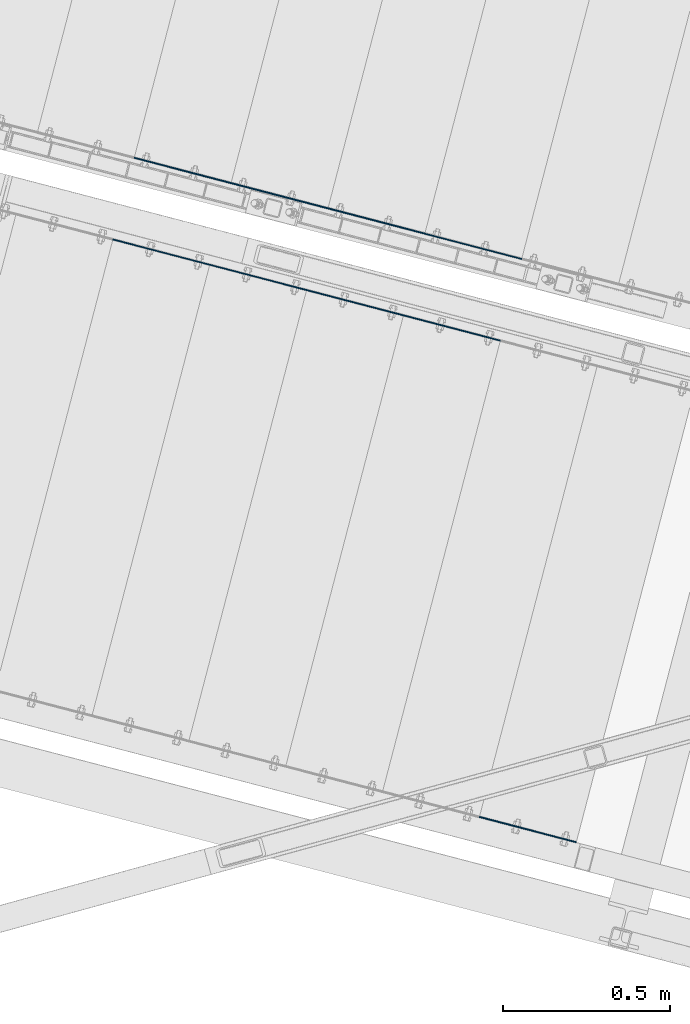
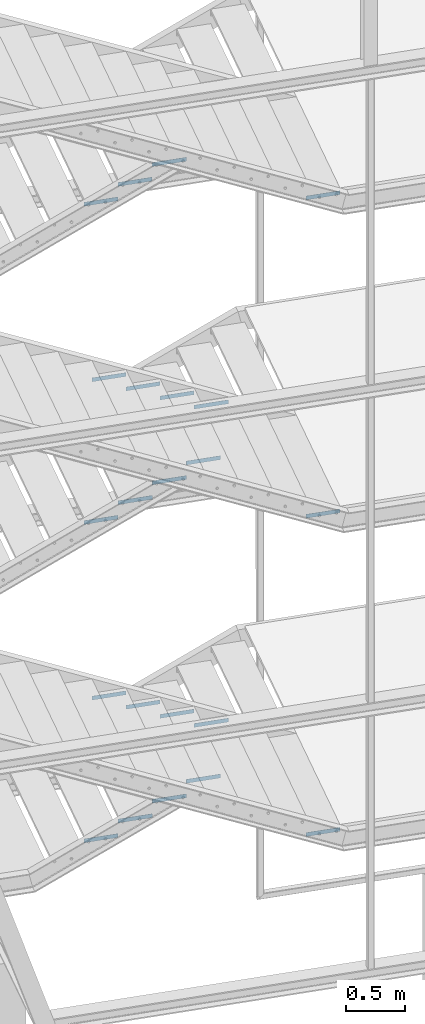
# One storey, part 68 of 169: 22 discrete accessories, 22 elements without a shape of their own.
"""IFC2X3 building model written with IfcOpenShell, lengths in millimetres."""

from ifc_helpers import new_model, si_unit, frame, origin_with_axes, origin_2d_with_axis, place, context, subcontext, project, spatial, rectangle, extrude, material, type_object, element, aggregate, save


model = new_model("IFC2X3")

# Units and contexts
model_context = context("Model", 3, precision=1e-05, world=origin_with_axes())
body_context = subcontext(model_context, "Body", "Model", "MODEL_VIEW")
ifc_project = project(units=[si_unit("LENGTHUNIT", "METRE", prefix="MILLI"), si_unit("AREAUNIT", "SQUARE_METRE"), si_unit("VOLUMEUNIT", "CUBIC_METRE"), si_unit("MASSUNIT", "GRAM", prefix="KILO"), si_unit("TIMEUNIT", "SECOND"), si_unit("PLANEANGLEUNIT", "RADIAN"), si_unit("SOLIDANGLEUNIT", "STERADIAN"), si_unit("THERMODYNAMICTEMPERATUREUNIT", "DEGREE_CELSIUS"), si_unit("LUMINOUSINTENSITYUNIT", "LUMEN")], contexts=[model_context])

# Site, building, storey
site_placement = place(None, origin_with_axes())
site = spatial("IfcSite", under=ifc_project, at=site_placement, Name="Undefined", CompositionType="ELEMENT")
building_placement = place(site_placement, origin_with_axes())
building = spatial("IfcBuilding", under=site, at=building_placement, Name="Undefined", CompositionType="ELEMENT")
storey_placement = place(building_placement, origin_with_axes())
storey = spatial("IfcBuildingStorey", under=building, at=storey_placement, Name="Undefined", CompositionType="ELEMENT", Elevation=0.0)

# Assembly, discrete accessory
assembly_1_placement = place(storey_placement, origin_with_axes())
assembly_1 = element("IfcElementAssembly", 1, at=assembly_1_placement, inside=storey, Name="Steel Assembly", AssemblyPlace="NOTDEFINED", PredefinedType="RIGID_FRAME")
ifc_material = material(Name="STEEL/S235JR")
discrete_accessory_type = type_object("IfcDiscreteAccessoryType", Name="ANGLE")
discrete_accessory_1_placement = place(assembly_1_placement, frame((-25143.0833693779, 4981.00144870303, 10680.3215823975), z_axis=(0.252694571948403, 0.967546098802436, 0.0), x_axis=(-0.967546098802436, 0.252694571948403, 0.0)))
discrete_accessory_1 = element("IfcDiscreteAccessory", 2, at=discrete_accessory_1_placement, type_object=discrete_accessory_type, material=ifc_material, Name="ANGLE", ObjectType="3*40", context=body_context, shape_type="SweptSolid", body=[
    extrude(rectangle(XDim=40.0, YDim=3.0, at=origin_2d_with_axis()), frame((300.000000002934, 1.81898940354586e-12, -1.81898940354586e-12), z_axis=(-1.0, -3.46944695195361e-18, -1.38777878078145e-17), x_axis=(1.73472347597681e-18, -1.0, 0.0)), (0.0, 0.0, 1.0), 300.0),
])
aggregate(assembly_1, [discrete_accessory_1])

assembly_2_placement = place(storey_placement, origin_with_axes())
assembly_2 = element("IfcElementAssembly", 3, at=assembly_2_placement, inside=storey, Name="Steel Assembly", AssemblyPlace="NOTDEFINED", PredefinedType="RIGID_FRAME")
discrete_accessory_2_placement = place(assembly_2_placement, frame((-25596.9766626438, 6804.76282408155, 10080.0958168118), z_axis=(0.252562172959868, 0.967580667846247, 0.0), x_axis=(-0.967580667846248, 0.252562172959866, 0.0)))
discrete_accessory_2 = element("IfcDiscreteAccessory", 4, at=discrete_accessory_2_placement, type_object=discrete_accessory_type, material=ifc_material, Name="ANGLE", ObjectType="3*40", context=body_context, shape_type="SweptSolid", body=[
    extrude(rectangle(XDim=40.0, YDim=3.0, at=origin_2d_with_axis()), frame((300.000000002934, 1.81898940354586e-12, -1.81898940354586e-12), z_axis=(-1.0, -3.46944695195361e-18, -1.38777878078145e-17), x_axis=(1.73472347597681e-18, -1.0, 0.0)), (0.0, 0.0, 1.0), 300.0),
])
aggregate(assembly_2, [discrete_accessory_2])

assembly_3_placement = place(storey_placement, origin_with_axes())
assembly_3 = element("IfcElementAssembly", 5, at=assembly_3_placement, inside=storey, Name="Steel Assembly", AssemblyPlace="NOTDEFINED", PredefinedType="RIGID_FRAME")
discrete_accessory_3_placement = place(assembly_3_placement, frame((-25887.2508663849, 6880.5314768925, 9930.09581681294), z_axis=(0.252562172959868, 0.967580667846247, 0.0), x_axis=(-0.967580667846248, 0.252562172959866, 0.0)))
discrete_accessory_3 = element("IfcDiscreteAccessory", 6, at=discrete_accessory_3_placement, type_object=discrete_accessory_type, material=ifc_material, Name="ANGLE", ObjectType="3*40", context=body_context, shape_type="SweptSolid", body=[
    extrude(rectangle(XDim=40.0, YDim=3.0, at=origin_2d_with_axis()), frame((300.000000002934, 1.81898940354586e-12, -1.81898940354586e-12), z_axis=(-1.0, -3.46944695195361e-18, -1.38777878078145e-17), x_axis=(1.73472347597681e-18, -1.0, 0.0)), (0.0, 0.0, 1.0), 300.0),
])
aggregate(assembly_3, [discrete_accessory_3])

assembly_4_placement = place(storey_placement, origin_with_axes())
assembly_4 = element("IfcElementAssembly", 7, at=assembly_4_placement, inside=storey, Name="Steel Assembly", AssemblyPlace="NOTDEFINED", PredefinedType="RIGID_FRAME")
discrete_accessory_4_placement = place(assembly_4_placement, frame((-26177.5250701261, 6956.30012970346, 9780.09581681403), z_axis=(0.252562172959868, 0.967580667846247, 0.0), x_axis=(-0.967580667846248, 0.252562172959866, 0.0)))
discrete_accessory_4 = element("IfcDiscreteAccessory", 8, at=discrete_accessory_4_placement, type_object=discrete_accessory_type, material=ifc_material, Name="ANGLE", ObjectType="3*40", context=body_context, shape_type="SweptSolid", body=[
    extrude(rectangle(XDim=40.0, YDim=3.0, at=origin_2d_with_axis()), frame((300.000000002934, 1.81898940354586e-12, -1.81898940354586e-12), z_axis=(-1.0, -3.46944695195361e-18, -1.38777878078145e-17), x_axis=(1.73472347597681e-18, -1.0, 0.0)), (0.0, 0.0, 1.0), 300.0),
])
aggregate(assembly_4, [discrete_accessory_4])

assembly_5_placement = place(storey_placement, origin_with_axes())
assembly_5 = element("IfcElementAssembly", 9, at=assembly_5_placement, inside=storey, Name="Steel Assembly", AssemblyPlace="NOTDEFINED", PredefinedType="RIGID_FRAME")
discrete_accessory_5_placement = place(assembly_5_placement, frame((-26531.7661255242, 6787.07666636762, 8130.32161330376), z_axis=(-0.252694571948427, -0.96754609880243, 0.0), x_axis=(0.96754609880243, -0.252694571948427, 0.0)))
discrete_accessory_5 = element("IfcDiscreteAccessory", 10, at=discrete_accessory_5_placement, type_object=discrete_accessory_type, material=ifc_material, Name="ANGLE", ObjectType="3*40", context=body_context, shape_type="SweptSolid", body=[
    extrude(rectangle(XDim=40.0, YDim=3.0, at=origin_2d_with_axis()), frame((300.000000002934, 1.81898940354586e-12, -1.81898940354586e-12), z_axis=(-1.0, -3.46944695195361e-18, -1.38777878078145e-17), x_axis=(1.73472347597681e-18, -1.0, 0.0)), (0.0, 0.0, 1.0), 300.0),
])
aggregate(assembly_5, [discrete_accessory_5])

assembly_6_placement = place(storey_placement, origin_with_axes())
assembly_6 = element("IfcElementAssembly", 11, at=assembly_6_placement, inside=storey, Name="Steel Assembly", AssemblyPlace="NOTDEFINED", PredefinedType="RIGID_FRAME")
discrete_accessory_6_placement = place(assembly_6_placement, frame((-26241.5022924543, 6711.26829401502, 7980.32161330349), z_axis=(-0.252694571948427, -0.96754609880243, 0.0), x_axis=(0.96754609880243, -0.252694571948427, 0.0)))
discrete_accessory_6 = element("IfcDiscreteAccessory", 12, at=discrete_accessory_6_placement, type_object=discrete_accessory_type, material=ifc_material, Name="ANGLE", ObjectType="3*40", context=body_context, shape_type="SweptSolid", body=[
    extrude(rectangle(XDim=40.0, YDim=3.0, at=origin_2d_with_axis()), frame((300.000000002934, 1.81898940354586e-12, -1.81898940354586e-12), z_axis=(-1.0, -3.46944695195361e-18, -1.38777878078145e-17), x_axis=(1.73472347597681e-18, -1.0, 0.0)), (0.0, 0.0, 1.0), 300.0),
])
aggregate(assembly_6, [discrete_accessory_6])

assembly_7_placement = place(storey_placement, origin_with_axes())
assembly_7 = element("IfcElementAssembly", 13, at=assembly_7_placement, inside=storey, Name="Steel Assembly", AssemblyPlace="NOTDEFINED", PredefinedType="RIGID_FRAME")
discrete_accessory_7_placement = place(assembly_7_placement, frame((-25951.2384593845, 6635.45992166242, 7830.32161330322), z_axis=(-0.252694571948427, -0.96754609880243, 0.0), x_axis=(0.96754609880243, -0.252694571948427, 0.0)))
discrete_accessory_7 = element("IfcDiscreteAccessory", 14, at=discrete_accessory_7_placement, type_object=discrete_accessory_type, material=ifc_material, Name="ANGLE", ObjectType="3*40", context=body_context, shape_type="SweptSolid", body=[
    extrude(rectangle(XDim=40.0, YDim=3.0, at=origin_2d_with_axis()), frame((300.000000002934, 1.81898940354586e-12, -1.81898940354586e-12), z_axis=(-1.0, -3.46944695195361e-18, -1.38777878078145e-17), x_axis=(1.73472347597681e-18, -1.0, 0.0)), (0.0, 0.0, 1.0), 300.0),
])
aggregate(assembly_7, [discrete_accessory_7])

assembly_8_placement = place(storey_placement, origin_with_axes())
assembly_8 = element("IfcElementAssembly", 15, at=assembly_8_placement, inside=storey, Name="Steel Assembly", AssemblyPlace="NOTDEFINED", PredefinedType="RIGID_FRAME")
discrete_accessory_8_placement = place(assembly_8_placement, frame((-25660.9746263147, 6559.65154930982, 7680.32161330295), z_axis=(-0.252694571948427, -0.96754609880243, 0.0), x_axis=(0.96754609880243, -0.252694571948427, 0.0)))
discrete_accessory_8 = element("IfcDiscreteAccessory", 16, at=discrete_accessory_8_placement, type_object=discrete_accessory_type, material=ifc_material, Name="ANGLE", ObjectType="3*40", context=body_context, shape_type="SweptSolid", body=[
    extrude(rectangle(XDim=40.0, YDim=3.0, at=origin_2d_with_axis()), frame((300.000000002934, 1.81898940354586e-12, -1.81898940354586e-12), z_axis=(-1.0, -3.46944695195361e-18, -1.38777878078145e-17), x_axis=(1.73472347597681e-18, -1.0, 0.0)), (0.0, 0.0, 1.0), 300.0),
])
aggregate(assembly_8, [discrete_accessory_8])

assembly_9_placement = place(storey_placement, origin_with_axes())
assembly_9 = element("IfcElementAssembly", 17, at=assembly_9_placement, inside=storey, Name="Steel Assembly", AssemblyPlace="NOTDEFINED", PredefinedType="RIGID_FRAME")
discrete_accessory_9_placement = place(assembly_9_placement, frame((-25143.1974467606, 4980.56453373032, 7380.3216133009), z_axis=(0.252694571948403, 0.967546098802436, 0.0), x_axis=(-0.967546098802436, 0.252694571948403, 0.0)))
discrete_accessory_9 = element("IfcDiscreteAccessory", 18, at=discrete_accessory_9_placement, type_object=discrete_accessory_type, material=ifc_material, Name="ANGLE", ObjectType="3*40", context=body_context, shape_type="SweptSolid", body=[
    extrude(rectangle(XDim=40.0, YDim=3.0, at=origin_2d_with_axis()), frame((300.000000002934, 1.81898940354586e-12, -1.81898940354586e-12), z_axis=(-1.0, -3.46944695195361e-18, -1.38777878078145e-17), x_axis=(1.73472347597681e-18, -1.0, 0.0)), (0.0, 0.0, 1.0), 300.0),
])
aggregate(assembly_9, [discrete_accessory_9])

assembly_10_placement = place(storey_placement, origin_with_axes())
assembly_10 = element("IfcElementAssembly", 19, at=assembly_10_placement, inside=storey, Name="Steel Assembly", AssemblyPlace="NOTDEFINED", PredefinedType="RIGID_FRAME")
discrete_accessory_10_placement = place(assembly_10_placement, frame((-25306.8165363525, 6728.55725632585, 6930.09584768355), z_axis=(0.252562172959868, 0.967580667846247, 0.0), x_axis=(-0.967580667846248, 0.252562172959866, 0.0)))
discrete_accessory_10 = element("IfcDiscreteAccessory", 20, at=discrete_accessory_10_placement, type_object=discrete_accessory_type, material=ifc_material, Name="ANGLE", ObjectType="3*40", context=body_context, shape_type="SweptSolid", body=[
    extrude(rectangle(XDim=40.0, YDim=3.0, at=origin_2d_with_axis()), frame((300.000000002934, 1.81898940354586e-12, -1.81898940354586e-12), z_axis=(-1.0, -3.46944695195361e-18, -1.38777878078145e-17), x_axis=(1.73472347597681e-18, -1.0, 0.0)), (0.0, 0.0, 1.0), 300.0),
])
aggregate(assembly_10, [discrete_accessory_10])

assembly_11_placement = place(storey_placement, origin_with_axes())
assembly_11 = element("IfcElementAssembly", 21, at=assembly_11_placement, inside=storey, Name="Steel Assembly", AssemblyPlace="NOTDEFINED", PredefinedType="RIGID_FRAME")
discrete_accessory_11_placement = place(assembly_11_placement, frame((-25597.0907400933, 6804.32590913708, 6780.09584768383), z_axis=(0.252562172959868, 0.967580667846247, 0.0), x_axis=(-0.967580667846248, 0.252562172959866, 0.0)))
discrete_accessory_11 = element("IfcDiscreteAccessory", 22, at=discrete_accessory_11_placement, type_object=discrete_accessory_type, material=ifc_material, Name="ANGLE", ObjectType="3*40", context=body_context, shape_type="SweptSolid", body=[
    extrude(rectangle(XDim=40.0, YDim=3.0, at=origin_2d_with_axis()), frame((300.000000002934, 1.81898940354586e-12, -1.81898940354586e-12), z_axis=(-1.0, -3.46944695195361e-18, -1.38777878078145e-17), x_axis=(1.73472347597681e-18, -1.0, 0.0)), (0.0, 0.0, 1.0), 300.0),
])
aggregate(assembly_11, [discrete_accessory_11])

assembly_12_placement = place(storey_placement, origin_with_axes())
assembly_12 = element("IfcElementAssembly", 23, at=assembly_12_placement, inside=storey, Name="Steel Assembly", AssemblyPlace="NOTDEFINED", PredefinedType="RIGID_FRAME")
discrete_accessory_12_placement = place(assembly_12_placement, frame((-25887.364943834, 6880.09456194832, 6630.0958476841), z_axis=(0.252562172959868, 0.967580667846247, 0.0), x_axis=(-0.967580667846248, 0.252562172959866, 0.0)))
discrete_accessory_12 = element("IfcDiscreteAccessory", 24, at=discrete_accessory_12_placement, type_object=discrete_accessory_type, material=ifc_material, Name="ANGLE", ObjectType="3*40", context=body_context, shape_type="SweptSolid", body=[
    extrude(rectangle(XDim=40.0, YDim=3.0, at=origin_2d_with_axis()), frame((300.000000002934, 1.81898940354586e-12, -1.81898940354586e-12), z_axis=(-1.0, -3.46944695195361e-18, -1.38777878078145e-17), x_axis=(1.73472347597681e-18, -1.0, 0.0)), (0.0, 0.0, 1.0), 300.0),
])
aggregate(assembly_12, [discrete_accessory_12])

assembly_13_placement = place(storey_placement, origin_with_axes())
assembly_13 = element("IfcElementAssembly", 25, at=assembly_13_placement, inside=storey, Name="Steel Assembly", AssemblyPlace="NOTDEFINED", PredefinedType="RIGID_FRAME")
discrete_accessory_13_placement = place(assembly_13_placement, frame((-26177.6391475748, 6955.86321475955, 6480.09584768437), z_axis=(0.252562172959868, 0.967580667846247, 0.0), x_axis=(-0.967580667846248, 0.252562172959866, 0.0)))
discrete_accessory_13 = element("IfcDiscreteAccessory", 26, at=discrete_accessory_13_placement, type_object=discrete_accessory_type, material=ifc_material, Name="ANGLE", ObjectType="3*40", context=body_context, shape_type="SweptSolid", body=[
    extrude(rectangle(XDim=40.0, YDim=3.0, at=origin_2d_with_axis()), frame((300.000000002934, 1.81898940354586e-12, -1.81898940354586e-12), z_axis=(-1.0, -3.46944695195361e-18, -1.38777878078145e-17), x_axis=(1.73472347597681e-18, -1.0, 0.0)), (0.0, 0.0, 1.0), 300.0),
])
aggregate(assembly_13, [discrete_accessory_13])

assembly_14_placement = place(storey_placement, origin_with_axes())
assembly_14 = element("IfcElementAssembly", 27, at=assembly_14_placement, inside=storey, Name="Steel Assembly", AssemblyPlace="NOTDEFINED", PredefinedType="RIGID_FRAME")
discrete_accessory_14_placement = place(assembly_14_placement, frame((-26531.8802029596, 6786.63975142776, 4830.32164420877), z_axis=(-0.252694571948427, -0.96754609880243, 0.0), x_axis=(0.96754609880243, -0.252694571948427, 0.0)))
discrete_accessory_14 = element("IfcDiscreteAccessory", 28, at=discrete_accessory_14_placement, type_object=discrete_accessory_type, material=ifc_material, Name="ANGLE", ObjectType="3*40", context=body_context, shape_type="SweptSolid", body=[
    extrude(rectangle(XDim=40.0, YDim=3.0, at=origin_2d_with_axis()), frame((300.000000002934, 1.81898940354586e-12, -1.81898940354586e-12), z_axis=(-1.0, -3.46944695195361e-18, -1.38777878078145e-17), x_axis=(1.73472347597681e-18, -1.0, 0.0)), (0.0, 0.0, 1.0), 300.0),
])
aggregate(assembly_14, [discrete_accessory_14])

assembly_15_placement = place(storey_placement, origin_with_axes())
assembly_15 = element("IfcElementAssembly", 29, at=assembly_15_placement, inside=storey, Name="Steel Assembly", AssemblyPlace="NOTDEFINED", PredefinedType="RIGID_FRAME")
discrete_accessory_15_placement = place(assembly_15_placement, frame((-26241.61636989, 6710.83137907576, 4680.32164420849), z_axis=(-0.252694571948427, -0.96754609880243, 0.0), x_axis=(0.96754609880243, -0.252694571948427, 0.0)))
discrete_accessory_15 = element("IfcDiscreteAccessory", 30, at=discrete_accessory_15_placement, type_object=discrete_accessory_type, material=ifc_material, Name="ANGLE", ObjectType="3*40", context=body_context, shape_type="SweptSolid", body=[
    extrude(rectangle(XDim=40.0, YDim=3.0, at=origin_2d_with_axis()), frame((300.000000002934, 1.81898940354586e-12, -1.81898940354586e-12), z_axis=(-1.0, -3.46944695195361e-18, -1.38777878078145e-17), x_axis=(1.73472347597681e-18, -1.0, 0.0)), (0.0, 0.0, 1.0), 300.0),
])
aggregate(assembly_15, [discrete_accessory_15])

assembly_16_placement = place(storey_placement, origin_with_axes())
assembly_16 = element("IfcElementAssembly", 31, at=assembly_16_placement, inside=storey, Name="Steel Assembly", AssemblyPlace="NOTDEFINED", PredefinedType="RIGID_FRAME")
discrete_accessory_16_placement = place(assembly_16_placement, frame((-25951.3525368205, 6635.02300672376, 4530.32164420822), z_axis=(-0.252694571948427, -0.96754609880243, 0.0), x_axis=(0.96754609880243, -0.252694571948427, 0.0)))
discrete_accessory_16 = element("IfcDiscreteAccessory", 32, at=discrete_accessory_16_placement, type_object=discrete_accessory_type, material=ifc_material, Name="ANGLE", ObjectType="3*40", context=body_context, shape_type="SweptSolid", body=[
    extrude(rectangle(XDim=40.0, YDim=3.0, at=origin_2d_with_axis()), frame((300.000000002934, 1.81898940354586e-12, -1.81898940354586e-12), z_axis=(-1.0, -3.46944695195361e-18, -1.38777878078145e-17), x_axis=(1.73472347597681e-18, -1.0, 0.0)), (0.0, 0.0, 1.0), 300.0),
])
aggregate(assembly_16, [discrete_accessory_16])

assembly_17_placement = place(storey_placement, origin_with_axes())
assembly_17 = element("IfcElementAssembly", 33, at=assembly_17_placement, inside=storey, Name="Steel Assembly", AssemblyPlace="NOTDEFINED", PredefinedType="RIGID_FRAME")
discrete_accessory_17_placement = place(assembly_17_placement, frame((-25661.0887037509, 6559.21463437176, 4380.32164420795), z_axis=(-0.252694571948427, -0.96754609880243, 0.0), x_axis=(0.96754609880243, -0.252694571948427, 0.0)))
discrete_accessory_17 = element("IfcDiscreteAccessory", 34, at=discrete_accessory_17_placement, type_object=discrete_accessory_type, material=ifc_material, Name="ANGLE", ObjectType="3*40", context=body_context, shape_type="SweptSolid", body=[
    extrude(rectangle(XDim=40.0, YDim=3.0, at=origin_2d_with_axis()), frame((300.000000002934, 1.81898940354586e-12, -1.81898940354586e-12), z_axis=(-1.0, -3.46944695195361e-18, -1.38777878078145e-17), x_axis=(1.73472347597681e-18, -1.0, 0.0)), (0.0, 0.0, 1.0), 300.0),
])
aggregate(assembly_17, [discrete_accessory_17])

assembly_18_placement = place(storey_placement, origin_with_axes())
assembly_18 = element("IfcElementAssembly", 35, at=assembly_18_placement, inside=storey, Name="Steel Assembly", AssemblyPlace="NOTDEFINED", PredefinedType="RIGID_FRAME")
discrete_accessory_18_placement = place(assembly_18_placement, frame((-25143.3115241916, 4980.12761881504, 4080.3216442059), z_axis=(0.252694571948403, 0.967546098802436, 0.0), x_axis=(-0.967546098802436, 0.252694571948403, 0.0)))
discrete_accessory_18 = element("IfcDiscreteAccessory", 36, at=discrete_accessory_18_placement, type_object=discrete_accessory_type, material=ifc_material, Name="ANGLE", ObjectType="3*40", context=body_context, shape_type="SweptSolid", body=[
    extrude(rectangle(XDim=40.0, YDim=3.0, at=origin_2d_with_axis()), frame((300.000000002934, 1.81898940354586e-12, -1.81898940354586e-12), z_axis=(-1.0, -3.46944695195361e-18, -1.38777878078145e-17), x_axis=(1.73472347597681e-18, -1.0, 0.0)), (0.0, 0.0, 1.0), 300.0),
])
aggregate(assembly_18, [discrete_accessory_18])

assembly_19_placement = place(storey_placement, origin_with_axes())
assembly_19 = element("IfcElementAssembly", 37, at=assembly_19_placement, inside=storey, Name="Steel Assembly", AssemblyPlace="NOTDEFINED", PredefinedType="RIGID_FRAME")
discrete_accessory_19_placement = place(assembly_19_placement, frame((-25306.9306218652, 6728.12034374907, 3630.0958743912), z_axis=(0.252562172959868, 0.967580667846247, 0.0), x_axis=(-0.967580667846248, 0.252562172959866, 0.0)))
discrete_accessory_19 = element("IfcDiscreteAccessory", 38, at=discrete_accessory_19_placement, type_object=discrete_accessory_type, material=ifc_material, Name="ANGLE", ObjectType="3*40", context=body_context, shape_type="SweptSolid", body=[
    extrude(rectangle(XDim=40.0, YDim=3.0, at=origin_2d_with_axis()), frame((300.000000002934, 1.81898940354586e-12, -1.81898940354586e-12), z_axis=(-1.0, -3.46944695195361e-18, -1.38777878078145e-17), x_axis=(1.73472347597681e-18, -1.0, 0.0)), (0.0, 0.0, 1.0), 300.0),
])
aggregate(assembly_19, [discrete_accessory_19])

assembly_20_placement = place(storey_placement, origin_with_axes())
assembly_20 = element("IfcElementAssembly", 39, at=assembly_20_placement, inside=storey, Name="Steel Assembly", AssemblyPlace="NOTDEFINED", PredefinedType="RIGID_FRAME")
discrete_accessory_20_placement = place(assembly_20_placement, frame((-25597.2048256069, 6803.88899655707, 3480.09587439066), z_axis=(0.252562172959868, 0.967580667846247, 0.0), x_axis=(-0.967580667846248, 0.252562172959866, 0.0)))
discrete_accessory_20 = element("IfcDiscreteAccessory", 40, at=discrete_accessory_20_placement, type_object=discrete_accessory_type, material=ifc_material, Name="ANGLE", ObjectType="3*40", context=body_context, shape_type="SweptSolid", body=[
    extrude(rectangle(XDim=40.0, YDim=3.0, at=origin_2d_with_axis()), frame((300.000000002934, 1.81898940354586e-12, -1.81898940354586e-12), z_axis=(-1.0, -3.46944695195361e-18, -1.38777878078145e-17), x_axis=(1.73472347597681e-18, -1.0, 0.0)), (0.0, 0.0, 1.0), 300.0),
])
aggregate(assembly_20, [discrete_accessory_20])

assembly_21_placement = place(storey_placement, origin_with_axes())
assembly_21 = element("IfcElementAssembly", 41, at=assembly_21_placement, inside=storey, Name="Steel Assembly", AssemblyPlace="NOTDEFINED", PredefinedType="RIGID_FRAME")
discrete_accessory_21_placement = place(assembly_21_placement, frame((-25887.4790293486, 6879.65764936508, 3330.09587439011), z_axis=(0.252562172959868, 0.967580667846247, 0.0), x_axis=(-0.967580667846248, 0.252562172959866, 0.0)))
discrete_accessory_21 = element("IfcDiscreteAccessory", 42, at=discrete_accessory_21_placement, type_object=discrete_accessory_type, material=ifc_material, Name="ANGLE", ObjectType="3*40", context=body_context, shape_type="SweptSolid", body=[
    extrude(rectangle(XDim=40.0, YDim=3.0, at=origin_2d_with_axis()), frame((300.000000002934, 1.81898940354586e-12, -1.81898940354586e-12), z_axis=(-1.0, -3.46944695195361e-18, -1.38777878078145e-17), x_axis=(1.73472347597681e-18, -1.0, 0.0)), (0.0, 0.0, 1.0), 300.0),
])
aggregate(assembly_21, [discrete_accessory_21])

assembly_22_placement = place(storey_placement, origin_with_axes())
assembly_22 = element("IfcElementAssembly", 43, at=assembly_22_placement, inside=storey, Name="Steel Assembly", AssemblyPlace="NOTDEFINED", PredefinedType="RIGID_FRAME")
discrete_accessory_22_placement = place(assembly_22_placement, frame((-26177.7532330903, 6955.42630217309, 3180.09587438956), z_axis=(0.252562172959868, 0.967580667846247, 0.0), x_axis=(-0.967580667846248, 0.252562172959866, 0.0)))
discrete_accessory_22 = element("IfcDiscreteAccessory", 44, at=discrete_accessory_22_placement, type_object=discrete_accessory_type, material=ifc_material, Name="ANGLE", ObjectType="3*40", context=body_context, shape_type="SweptSolid", body=[
    extrude(rectangle(XDim=40.0, YDim=3.0, at=origin_2d_with_axis()), frame((300.000000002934, 1.81898940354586e-12, -1.81898940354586e-12), z_axis=(-1.0, -3.46944695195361e-18, -1.38777878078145e-17), x_axis=(1.73472347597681e-18, -1.0, 0.0)), (0.0, 0.0, 1.0), 300.0),
])
aggregate(assembly_22, [discrete_accessory_22])

save(model, "model.ifc")
